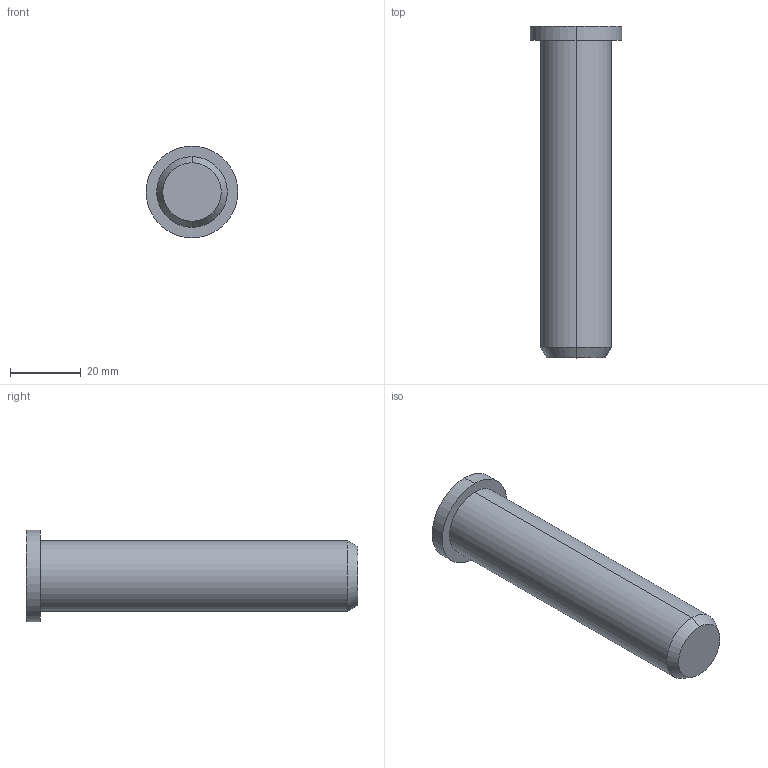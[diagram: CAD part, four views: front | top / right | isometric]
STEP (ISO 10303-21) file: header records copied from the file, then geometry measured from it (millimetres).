
FILE_DESCRIPTION (( 'STEP AP214' ), '1' );
FILE_NAME ('2342-NI-20-90-B-1.step', '2023-09-25T13:08:55', ( '' ), ( '' ), 'SwSTEP 2.0', 'SolidWorks 2022', '' );
FILE_SCHEMA (( 'AUTOMOTIVE_DESIGN' ));
Length unit declared in the file: millimetre
Products named in the file (1): 2342-NI-20-90-B-1
Bounding box: 26 x 94 x 26 mm (x, y, z)
Volume: 30119.4 mm3; surface area: 7032.4 mm2
Topology: 1 solids, 2 shells, 39 faces, 91 edges, 58 vertices
Faces by surface type: cylinder 27, cone 6, plane 6
Entity records: 1175 total; most frequent: DIRECTION 229, CARTESIAN_POINT 189, ORIENTED_EDGE 182, AXIS2_PLACEMENT_3D 98, EDGE_CURVE 91, CIRCLE 58, VERTEX_POINT 58, EDGE_LOOP 43
